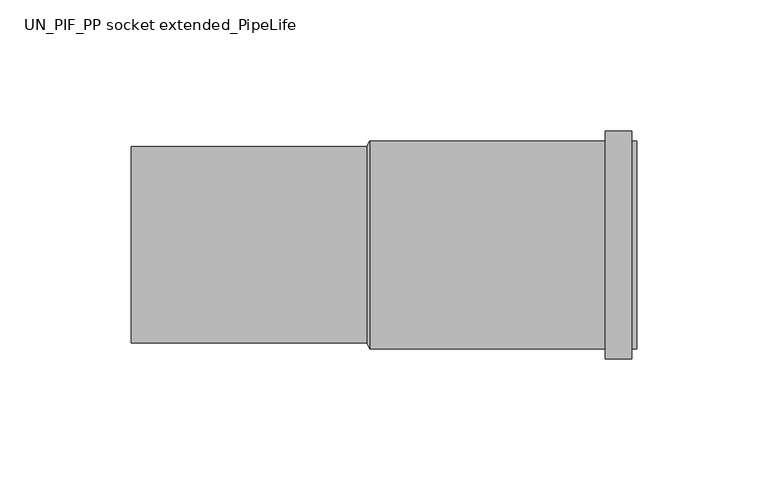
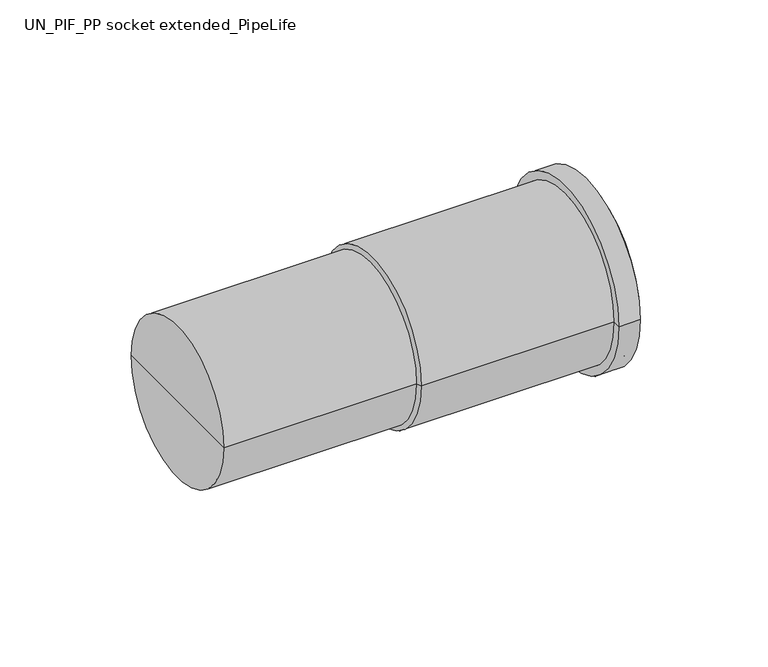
"""IFC4 building model written with IfcOpenShell, lengths in millimetres: pipe fitting geometry, UN_PIF_PP socket extended_PipeLife : Black, var. DN/OD (max. ø125)."""

from ifc_helpers import new_model, si_unit, frame, origin, place, context, project, spatial, polyline, circle_curve, source, transform, mapped, element, save
from ifc_brep_helpers import plane_surface, cylinder_surface, revolved_surface, advanced_brep


def un_pif_pp_socket_extended_pipelife_c8d7b6f2(model_context):
    return source(origin(), model_context, "Body", "AdvancedBrep", [
        advanced_brep(
        [(-91.0, 0.0, 0.0), (-91.0, 37.5, 0.0), (-91.0, -37.5, 0.0), (-1.0, 37.5, 0.0), (-1.0, -37.5, 0.0), (0.0, 39.65, 0.0), (0.0, -39.65, 0.0), (90.0, 39.65, 0.0), (90.0, -39.65, 0.0), (90.0, 43.5, 0.0), (90.0, -43.5, 0.0), (100.0, 43.5, 0.0), (100.0, -43.5, 0.0), (100.0, 39.65, 0.0), (100.0, -39.65, 0.0), (102.0, 39.65, 0.0), (102.0, -39.65, 0.0), (102.0, 0.0, 0.0)],
        [
            (0, 1),
            (1, 2, circle_curve(frame((-91.0, 0.0, 0.0), z_axis=(-1.0, 0.0, 0.0), x_axis=(0.0, 1.0, 0.0)), 37.5)),
            (2, 0),
            (2, 1, circle_curve(frame((-91.0, 0.0, 0.0), z_axis=(-1.0, 0.0, 0.0), x_axis=(0.0, 1.0, 0.0)), 37.5)),
            (1, 3),
            (3, 4, circle_curve(frame((-1.0, 0.0, 0.0), z_axis=(-1.0, 0.0, 0.0), x_axis=(0.0, 1.0, 0.0)), 37.5)),
            (4, 2),
            (4, 3, circle_curve(frame((-1.0, 0.0, 0.0), z_axis=(-1.0, 0.0, 0.0), x_axis=(0.0, 1.0, 0.0)), 37.5)),
            (3, 5),
            (5, 6, circle_curve(frame((0.0, 0.0, 0.0), z_axis=(-1.0, 0.0, 0.0), x_axis=(0.0, 1.0, 0.0)), 39.65)),
            (6, 4),
            (6, 5, circle_curve(frame((0.0, 0.0, 0.0), z_axis=(-1.0, 0.0, 0.0), x_axis=(0.0, 1.0, 0.0)), 39.65)),
            (5, 7),
            (7, 8, circle_curve(frame((90.0, 0.0, 0.0), z_axis=(-1.0, 0.0, 0.0), x_axis=(0.0, 1.0, 0.0)), 39.65)),
            (8, 6),
            (8, 7, circle_curve(frame((90.0, 0.0, 0.0), z_axis=(-1.0, 0.0, 0.0), x_axis=(0.0, 1.0, 0.0)), 39.65)),
            (7, 9),
            (9, 10, circle_curve(frame((90.0, 0.0, 0.0), z_axis=(-1.0, 0.0, 0.0), x_axis=(0.0, 1.0, 0.0)), 43.5)),
            (10, 8),
            (10, 9, circle_curve(frame((90.0, 0.0, 0.0), z_axis=(-1.0, 0.0, 0.0), x_axis=(0.0, 1.0, 0.0)), 43.5)),
            (9, 11),
            (11, 12, circle_curve(frame((100.0, 0.0, 0.0), z_axis=(-1.0, 0.0, 0.0), x_axis=(0.0, 1.0, 0.0)), 43.5)),
            (12, 10),
            (12, 11, circle_curve(frame((100.0, 0.0, 0.0), z_axis=(-1.0, 0.0, 0.0), x_axis=(0.0, 1.0, 0.0)), 43.5)),
            (11, 13),
            (13, 14, circle_curve(frame((100.0, 0.0, 0.0), z_axis=(-1.0, 0.0, 0.0), x_axis=(0.0, 1.0, 0.0)), 39.65)),
            (14, 12),
            (14, 13, circle_curve(frame((100.0, 0.0, 0.0), z_axis=(-1.0, 0.0, 0.0), x_axis=(0.0, 1.0, 0.0)), 39.65)),
            (13, 15),
            (15, 16, circle_curve(frame((102.0, 0.0, 0.0), z_axis=(-1.0, 0.0, 0.0), x_axis=(0.0, 1.0, 0.0)), 39.65)),
            (16, 14),
            (16, 15, circle_curve(frame((102.0, 0.0, 0.0), z_axis=(-1.0, 0.0, 0.0), x_axis=(0.0, 1.0, 0.0)), 39.65)),
            (15, 17),
            (17, 16),
        ],
        [
            plane_surface(frame((-91.0, 0.0, 0.0), z_axis=(-1.0, 0.0, 0.0), x_axis=(0.0, 1.0, 0.0))),
            cylinder_surface(frame((102.0, 0.0, 0.0), z_axis=(-1.0, 0.0, 0.0), x_axis=(0.0, 1.0, 0.0)), 37.5),
            revolved_surface(polyline([(0.0, 39.65, 0.0), (-1.0, 37.5, 0.0)]), (102.0, 0.0, 0.0), (-1.0, 0.0, 0.0)),
            cylinder_surface(frame((102.0, 0.0, 0.0), z_axis=(-1.0, 0.0, 0.0), x_axis=(0.0, 1.0, 0.0)), 39.65),
            plane_surface(frame((90.0, 0.0, 0.0), z_axis=(-1.0, 0.0, 0.0), x_axis=(0.0, 1.0, 0.0))),
            cylinder_surface(frame((102.0, 0.0, 0.0), z_axis=(-1.0, 0.0, 0.0), x_axis=(0.0, 1.0, 0.0)), 43.5),
            plane_surface(frame((100.0, 0.0, 0.0), z_axis=(1.0, 0.0, 0.0), x_axis=(0.0, 1.0, 0.0))),
            plane_surface(frame((102.0, 0.0, 0.0), z_axis=(1.0, 0.0, 0.0), x_axis=(0.0, 1.0, 0.0))),
        ],
        [
            (0, [[1, 2, 3]]),
            (0, [[-3, 4, -1]]),
            (1, [[-2, 5, 6, 7]]),
            (1, [[-4, -7, 8, -5]]),
            (2, [[-6, 9, 10, 11]]),
            (2, [[-8, -11, 12, -9]]),
            (3, [[-10, 13, 14, 15]]),
            (3, [[-12, -15, 16, -13]]),
            (4, [[-14, 17, 18, 19]]),
            (4, [[-16, -19, 20, -17]]),
            (5, [[-18, 21, 22, 23]]),
            (5, [[-20, -23, 24, -21]]),
            (6, [[-22, 25, 26, 27]]),
            (6, [[-24, -27, 28, -25]]),
            (3, [[-26, 29, 30, 31]]),
            (3, [[-28, -31, 32, -29]]),
            (7, [[-30, 33, 34]]),
            (7, [[-32, -34, -33]]),
        ],
    ),
    ])


if __name__ == "__main__":
    model = new_model("IFC4")
    model_context = context("Model", 3, world=origin())
    ifc_project = project(units=[si_unit("LENGTHUNIT", "METRE", prefix="MILLI")], contexts=[model_context])
    site = spatial("IfcSite", under=ifc_project)
    building = spatial("IfcBuilding", under=site)
    placement = place(None, origin())
    un_pif_pp_socket_extended_pipelife_shape = un_pif_pp_socket_extended_pipelife_c8d7b6f2(model_context)
    element("IfcPipeFitting", 1, ObjectType="UN_PIF_PP socket extended_PipeLife : Black, var. DN/OD (max. ø125)", at=placement, inside=building, context=model_context, shape_type="MappedRepresentation", body=[
        mapped(un_pif_pp_socket_extended_pipelife_shape, transform((0.0, 0.0, 0.0), x_axis=(1.0, 0.0, 0.0), y_axis=(0.0, 1.0, 0.0), z_axis=(0.0, 0.0, 1.0))),
    ])
    save(model, "model.ifc")
